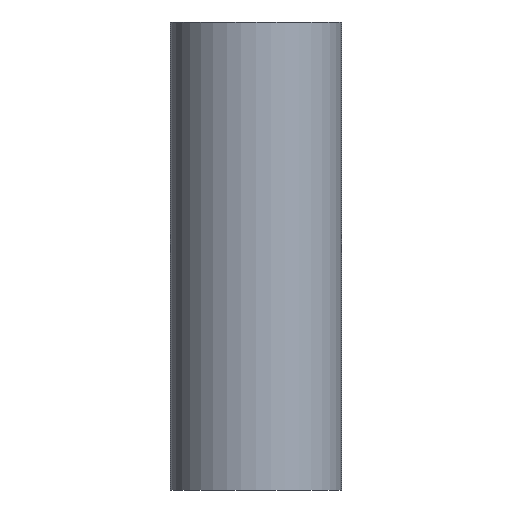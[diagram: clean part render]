
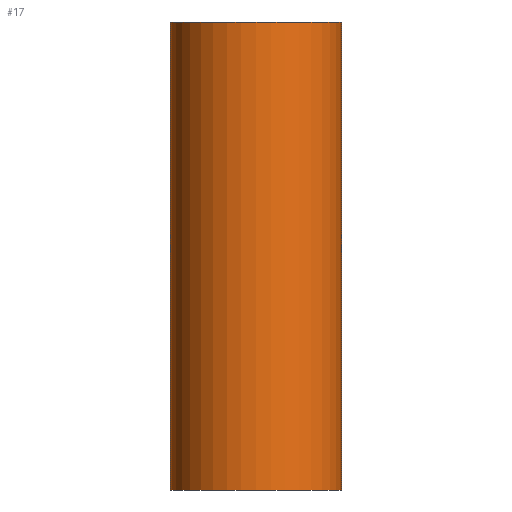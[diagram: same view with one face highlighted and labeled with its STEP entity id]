
A CAD part, left-side view. The second image highlights one B-rep face of the part: STEP entity #17.
In plain terms, the highlighted cylindrical face has radius 0.85 mm (diameter 1.7 mm), a full revolution.
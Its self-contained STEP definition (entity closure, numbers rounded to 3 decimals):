
#17 = ADVANCED_FACE('',(#18),#31,.T.);
#18 = FACE_BOUND('',#19,.T.);
#19 = EDGE_LOOP('',(#20,#54,#77,#104));
#20 = ORIENTED_EDGE('',*,*,#21,.F.);
#21 = EDGE_CURVE('',#22,#22,#24,.T.);
#22 = VERTEX_POINT('',#23);
#23 = CARTESIAN_POINT('',(16.45,-6.05,-1.9));
#24 = SURFACE_CURVE('',#25,(#30,#42),.PCURVE_S1.);
#25 = CIRCLE('',#26,0.85);
#26 = AXIS2_PLACEMENT_3D('',#27,#28,#29);
#27 = CARTESIAN_POINT('',(15.6,-6.05,-1.9));
#28 = DIRECTION('',(0.,0.,1.));
#29 = DIRECTION('',(1.,0.,-0.));
#30 = PCURVE('',#31,#36);
#31 = CYLINDRICAL_SURFACE('',#32,0.85);
#32 = AXIS2_PLACEMENT_3D('',#33,#34,#35);
#33 = CARTESIAN_POINT('',(15.6,-6.05,-6.55));
#34 = DIRECTION('',(0.,0.,1.));
#35 = DIRECTION('',(1.,0.,-0.));
#36 = DEFINITIONAL_REPRESENTATION('',(#37),#41);
#37 = LINE('',#38,#39);
#38 = CARTESIAN_POINT('',(0.,4.65));
#39 = VECTOR('',#40,1.);
#40 = DIRECTION('',(1.,0.));
#41 = ( GEOMETRIC_REPRESENTATION_CONTEXT(2) 
PARAMETRIC_REPRESENTATION_CONTEXT() REPRESENTATION_CONTEXT('2D SPACE',''
  ) );
#42 = PCURVE('',#43,#48);
#43 = PLANE('',#44);
#44 = AXIS2_PLACEMENT_3D('',#45,#46,#47);
#45 = CARTESIAN_POINT('',(15.6,-6.05,-1.9));
#46 = DIRECTION('',(0.,0.,1.));
#47 = DIRECTION('',(1.,0.,-0.));
#48 = DEFINITIONAL_REPRESENTATION('',(#49),#53);
#49 = CIRCLE('',#50,0.85);
#50 = AXIS2_PLACEMENT_2D('',#51,#52);
#51 = CARTESIAN_POINT('',(0.,0.));
#52 = DIRECTION('',(1.,0.));
#53 = ( GEOMETRIC_REPRESENTATION_CONTEXT(2) 
PARAMETRIC_REPRESENTATION_CONTEXT() REPRESENTATION_CONTEXT('2D SPACE',''
  ) );
#54 = ORIENTED_EDGE('',*,*,#55,.F.);
#55 = EDGE_CURVE('',#56,#22,#58,.T.);
#56 = VERTEX_POINT('',#57);
#57 = CARTESIAN_POINT('',(16.45,-6.05,-6.55));
#58 = SEAM_CURVE('',#59,(#63,#70),.PCURVE_S1.);
#59 = LINE('',#60,#61);
#60 = CARTESIAN_POINT('',(16.45,-6.05,-6.55));
#61 = VECTOR('',#62,1.);
#62 = DIRECTION('',(0.,0.,1.));
#63 = PCURVE('',#31,#64);
#64 = DEFINITIONAL_REPRESENTATION('',(#65),#69);
#65 = LINE('',#66,#67);
#66 = CARTESIAN_POINT('',(6.283,-0.));
#67 = VECTOR('',#68,1.);
#68 = DIRECTION('',(0.,1.));
#69 = ( GEOMETRIC_REPRESENTATION_CONTEXT(2) 
PARAMETRIC_REPRESENTATION_CONTEXT() REPRESENTATION_CONTEXT('2D SPACE',''
  ) );
#70 = PCURVE('',#31,#71);
#71 = DEFINITIONAL_REPRESENTATION('',(#72),#76);
#72 = LINE('',#73,#74);
#73 = CARTESIAN_POINT('',(0.,-0.));
#74 = VECTOR('',#75,1.);
#75 = DIRECTION('',(0.,1.));
#76 = ( GEOMETRIC_REPRESENTATION_CONTEXT(2) 
PARAMETRIC_REPRESENTATION_CONTEXT() REPRESENTATION_CONTEXT('2D SPACE',''
  ) );
#77 = ORIENTED_EDGE('',*,*,#78,.T.);
#78 = EDGE_CURVE('',#56,#56,#79,.T.);
#79 = SURFACE_CURVE('',#80,(#85,#92),.PCURVE_S1.);
#80 = CIRCLE('',#81,0.85);
#81 = AXIS2_PLACEMENT_3D('',#82,#83,#84);
#82 = CARTESIAN_POINT('',(15.6,-6.05,-6.55));
#83 = DIRECTION('',(0.,0.,1.));
#84 = DIRECTION('',(1.,0.,-0.));
#85 = PCURVE('',#31,#86);
#86 = DEFINITIONAL_REPRESENTATION('',(#87),#91);
#87 = LINE('',#88,#89);
#88 = CARTESIAN_POINT('',(0.,0.));
#89 = VECTOR('',#90,1.);
#90 = DIRECTION('',(1.,0.));
#91 = ( GEOMETRIC_REPRESENTATION_CONTEXT(2) 
PARAMETRIC_REPRESENTATION_CONTEXT() REPRESENTATION_CONTEXT('2D SPACE',''
  ) );
#92 = PCURVE('',#93,#98);
#93 = PLANE('',#94);
#94 = AXIS2_PLACEMENT_3D('',#95,#96,#97);
#95 = CARTESIAN_POINT('',(15.6,-6.05,-6.55));
#96 = DIRECTION('',(0.,0.,1.));
#97 = DIRECTION('',(1.,0.,-0.));
#98 = DEFINITIONAL_REPRESENTATION('',(#99),#103);
#99 = CIRCLE('',#100,0.85);
#100 = AXIS2_PLACEMENT_2D('',#101,#102);
#101 = CARTESIAN_POINT('',(0.,0.));
#102 = DIRECTION('',(1.,0.));
#103 = ( GEOMETRIC_REPRESENTATION_CONTEXT(2) 
PARAMETRIC_REPRESENTATION_CONTEXT() REPRESENTATION_CONTEXT('2D SPACE',''
  ) );
#104 = ORIENTED_EDGE('',*,*,#55,.T.);
